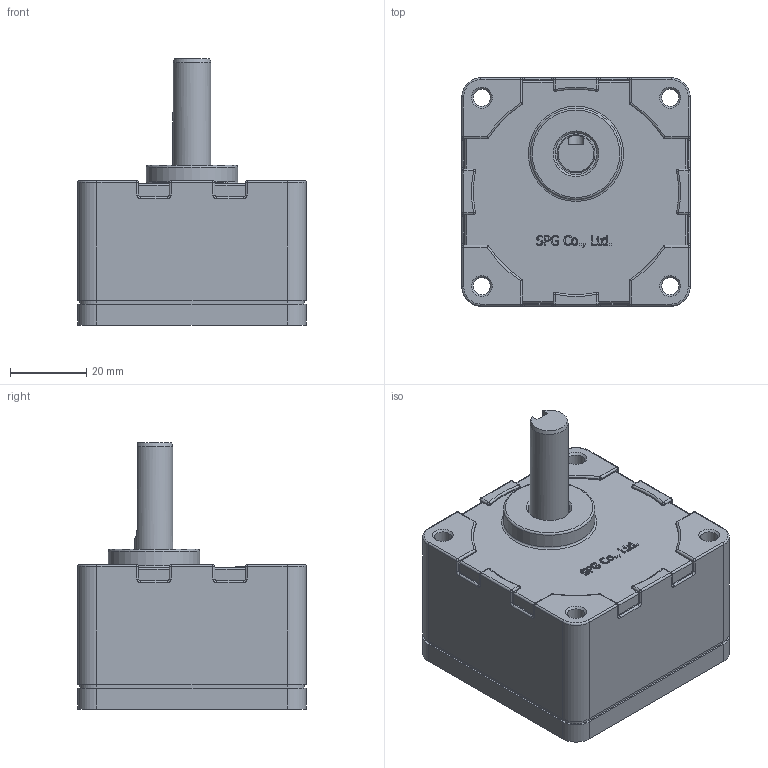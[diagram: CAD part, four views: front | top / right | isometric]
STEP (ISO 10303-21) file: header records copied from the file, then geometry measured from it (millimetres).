
FILE_DESCRIPTION((''),'2;1');
FILE_NAME('C:\Documents and Settings\Administrator\바탕 화면\BLDC 3D FILE\GEAR HEAD ASS''Y\60\XTG630K~XTG6100K.stp','2014-06-19T12:43:33',('kdhkdh'),(''),'Autodesk Inventor 2011','Autodesk Inventor 2011','');
FILE_SCHEMA(('AUTOMOTIVE_DESIGN { 1 0 10303 214 1 1 1 1 }'));
Length unit declared in the file: millimetre
Products named in the file (1): 부품6
Bounding box: 60 x 60 x 70 mm (x, y, z)
Volume: 129118.9 mm3; surface area: 20988.3 mm2
Topology: 1 solids, 1 shells, 449 faces, 1130 edges, 686 vertices
Faces by surface type: plane 152, cylinder 140, bspline 81, sphere 32, torus 30, cone 14
Full cylindrical faces by diameter (mm): 2.6 x6, 2.8 x4, 4.5 x4, 5 x8, 5.7 x1, 10 x1, 11 x1, 24 x1, 54 x1
Entity records: 13309 total; most frequent: CARTESIAN_POINT 3325, ORIENTED_EDGE 2072, DIRECTION 1941, EDGE_CURVE 1036, AXIS2_PLACEMENT_3D 704, VERTEX_POINT 666, EDGE_LOOP 534, VECTOR 533
